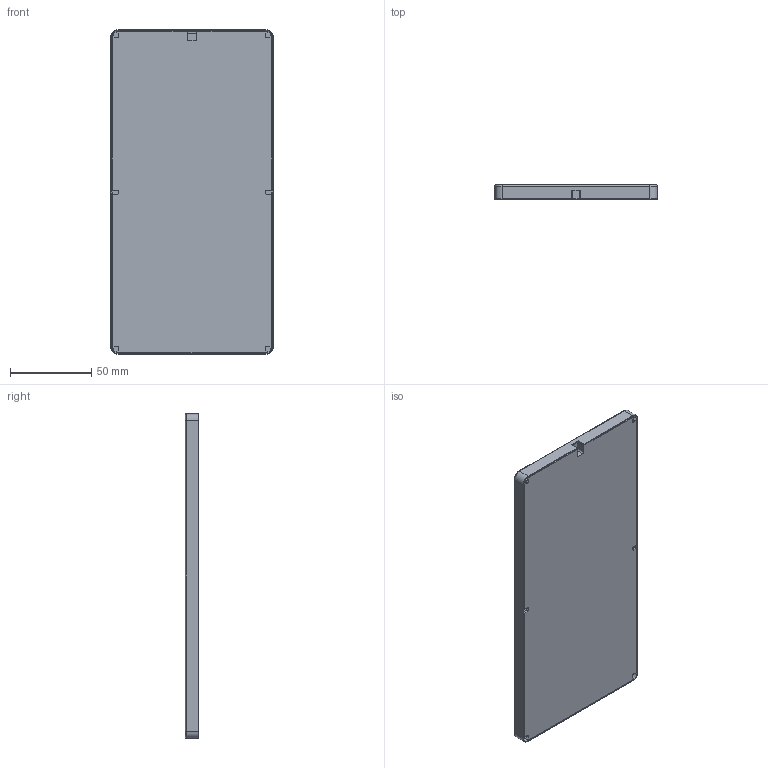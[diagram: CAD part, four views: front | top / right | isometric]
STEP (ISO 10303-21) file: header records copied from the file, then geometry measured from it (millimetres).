
FILE_DESCRIPTION (( 'STEP AP203' ), '1' );
FILE_NAME ('Neo Pro.STEP', '2022-07-20T13:04:09', ( '' ), ( '' ), 'SwSTEP 2.0', 'SolidWorks 2020', '' );
FILE_SCHEMA (( 'CONFIG_CONTROL_DESIGN' ));
Length unit declared in the file: millimetre
Products named in the file (4): Neo Pro; Neo Pro - Magnetic Bezel_TrioTone & Pro; Neo Switch; Neo Light Body_IR Version
Assembly tree (3 placements, depth 2):
  Neo Pro
    Neo Light Body_IR Version
    Neo Pro - Magnetic Bezel_TrioTone & Pro
    Neo Switch
Bounding box: 100 x 8.5 x 200 mm (x, y, z)
Volume: 146096.2 mm3; surface area: 81935.1 mm2
Topology: 3 solids, 3 shells, 321 faces, 880 edges, 580 vertices
Faces by surface type: plane 212, cylinder 97, torus 8, cone 4
Entity records: 10566 total; most frequent: CARTESIAN_POINT 1799, ORIENTED_EDGE 1760, DIRECTION 1744, EDGE_CURVE 880, VECTOR 662, LINE 662, VERTEX_POINT 580, AXIS2_PLACEMENT_3D 541
